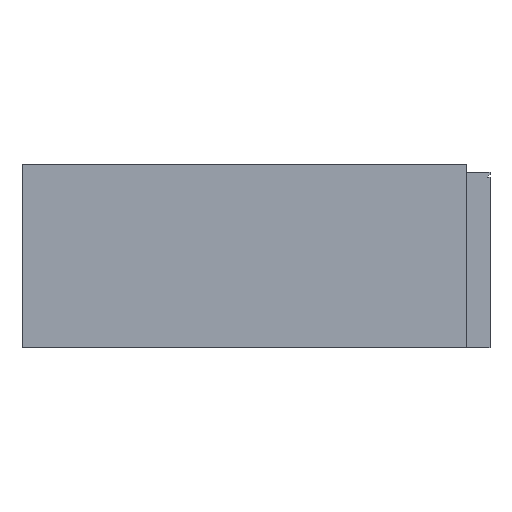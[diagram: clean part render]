
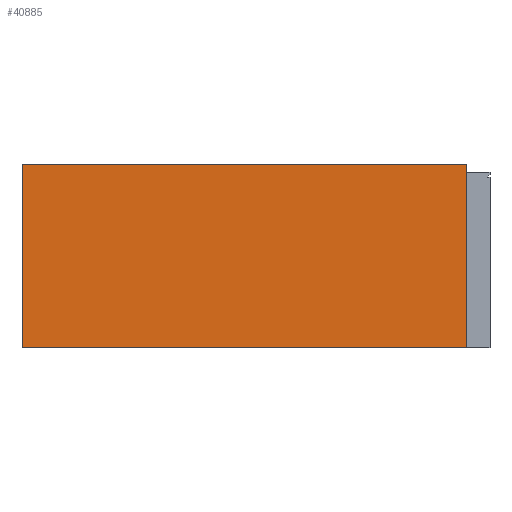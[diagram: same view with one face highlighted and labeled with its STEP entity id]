
A CAD part, left-side view. The second image highlights one B-rep face of the part: STEP entity #40885.
In plain terms, the highlighted planar face has unit normal (-1, 0, 0).
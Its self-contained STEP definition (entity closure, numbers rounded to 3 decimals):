
#4329=FACE_OUTER_BOUND('',#6815,.T.);
#6815=EDGE_LOOP('',(#36868,#36869,#36870,#36871));
#7702=LINE('',#60229,#11073);
#9085=LINE('',#71792,#12456);
#10150=LINE('',#76876,#13521);
#10151=LINE('',#76877,#13522);
#11073=VECTOR('',#48384,10.);
#12456=VECTOR('',#52599,10.);
#13521=VECTOR('',#56180,10.);
#13522=VECTOR('',#56181,10.);
#16600=VERTEX_POINT('',#60227);
#16601=VERTEX_POINT('',#60228);
#18213=VERTEX_POINT('',#71791);
#19385=VERTEX_POINT('',#76875);
#21017=EDGE_CURVE('',#16600,#16601,#7702,.T.);
#23466=EDGE_CURVE('',#18213,#16601,#9085,.T.);
#25262=EDGE_CURVE('',#16600,#19385,#10150,.T.);
#25263=EDGE_CURVE('',#19385,#18213,#10151,.T.);
#36868=ORIENTED_EDGE('',*,*,#25262,.T.);
#36869=ORIENTED_EDGE('',*,*,#25263,.T.);
#36870=ORIENTED_EDGE('',*,*,#23466,.T.);
#36871=ORIENTED_EDGE('',*,*,#21017,.F.);
#38649=PLANE('',#44973);
#40885=ADVANCED_FACE('',(#4329),#38649,.T.);
#44973=AXIS2_PLACEMENT_3D('',#76874,#56178,#56179);
#48384=DIRECTION('',(0.,-1.,0.));
#52599=DIRECTION('',(0.,0.,1.));
#56178=DIRECTION('center_axis',(-1.,0.,0.));
#56179=DIRECTION('ref_axis',(0.,-1.,0.));
#56180=DIRECTION('',(0.,0.,-1.));
#56181=DIRECTION('',(0.,-1.,0.));
#60227=CARTESIAN_POINT('',(-850.,850.,700.));
#60228=CARTESIAN_POINT('',(-850.,-850.,700.));
#60229=CARTESIAN_POINT('',(-850.,850.,700.));
#71791=CARTESIAN_POINT('',(-850.,-850.,0.));
#71792=CARTESIAN_POINT('',(-850.,-850.,300.));
#76874=CARTESIAN_POINT('Origin',(-850.,838.,0.));
#76875=CARTESIAN_POINT('',(-850.,850.,0.));
#76876=CARTESIAN_POINT('',(-850.,850.,300.));
#76877=CARTESIAN_POINT('',(-850.,838.,0.));
